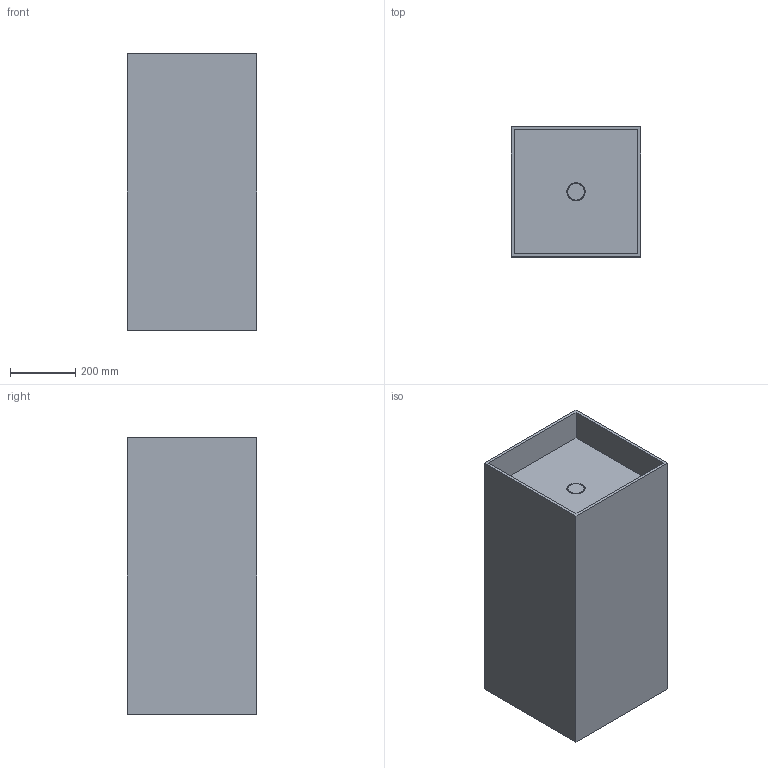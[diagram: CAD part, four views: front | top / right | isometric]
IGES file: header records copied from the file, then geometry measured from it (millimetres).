
Global section: file name: D:\Desktop\GIOVANNI\SCHEDE PRODOTTO\LAVABI\FREESTANDING\TOWER\3D\MOMA DESIGN_LAVABI FREESTANDING_TOWER LITE.igs; native system: Rhinoceros ( Jan 17 2018 ); preprocessor: Trout Lake IGES 012 Jan 17 2018; date: 230530.125017; units: millimetre
Bounding box: 398.93 x 398.93 x 850 mm (x, y, z)
Surface area: 1680893.9 mm2 (no closed solid volume)
Topology: 0 solids, 0 shells, 15 faces, 71 edges, 68 vertices
Faces by surface type: bspline 15
